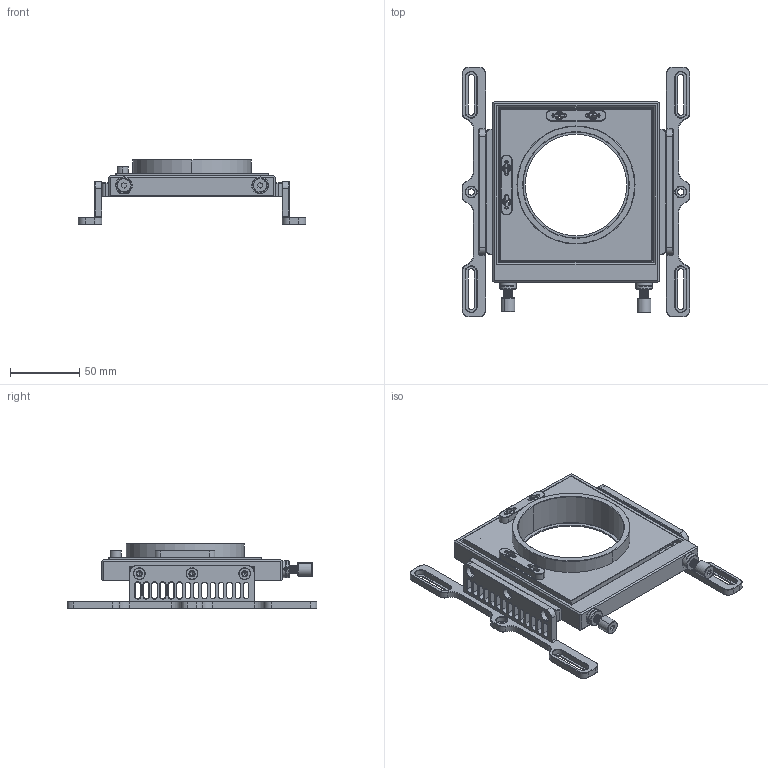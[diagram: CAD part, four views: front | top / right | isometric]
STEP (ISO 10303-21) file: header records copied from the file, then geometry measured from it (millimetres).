
FILE_DESCRIPTION (( 'STEP AP214' ), '1' );
FILE_NAME ('三英寸上方调节装配体.STEP', '2026-10-12T01:25:51', ( '' ), ( '' ), 'SwSTEP 2.0', 'SolidWorks 2024', '' );
FILE_SCHEMA (( 'AUTOMOTIVE_DESIGN' ));
Length unit declared in the file: millimetre
Products named in the file (15): 2×12陶瓷销; 三英寸定板; 2×35金属销; v垫块; 2螺母; 三英寸动板; 加高板; 长顶杆2; 2×8金属销; 2短顶杆; 8mm珠子; 0.8×5×15; 三角垫块; 8.5珠子; 三英寸上方调节装配体
Assembly tree (27 placements, depth 2):
  三英寸上方调节装配体
    三英寸定板
    8mm珠子
    三英寸动板
    2短顶杆
    v垫块
    三角垫块
    2螺母  x2
    长顶杆2
    8.5珠子  x2
    2×12陶瓷销  x4
    2×35金属销  x2
    2×8金属销  x4
    0.8×5×15  x4
    加高板  x2
Bounding box: 164 x 180 x 46.78 mm (x, y, z)
Volume: 205534.1 mm3; surface area: 102064.9 mm2
Topology: 27 solids, 27 shells, 1366 faces, 3375 edges, 2072 vertices
Faces by surface type: plane 503, cylinder 464, cone 339, bspline 38, torus 16, sphere 6
Entity records: 49241 total; most frequent: CARTESIAN_POINT 26106, ORIENTED_EDGE 4824, DIRECTION 4625, EDGE_CURVE 2412, AXIS2_PLACEMENT_3D 1653, VERTEX_POINT 1497, LINE 1319, VECTOR 1319
